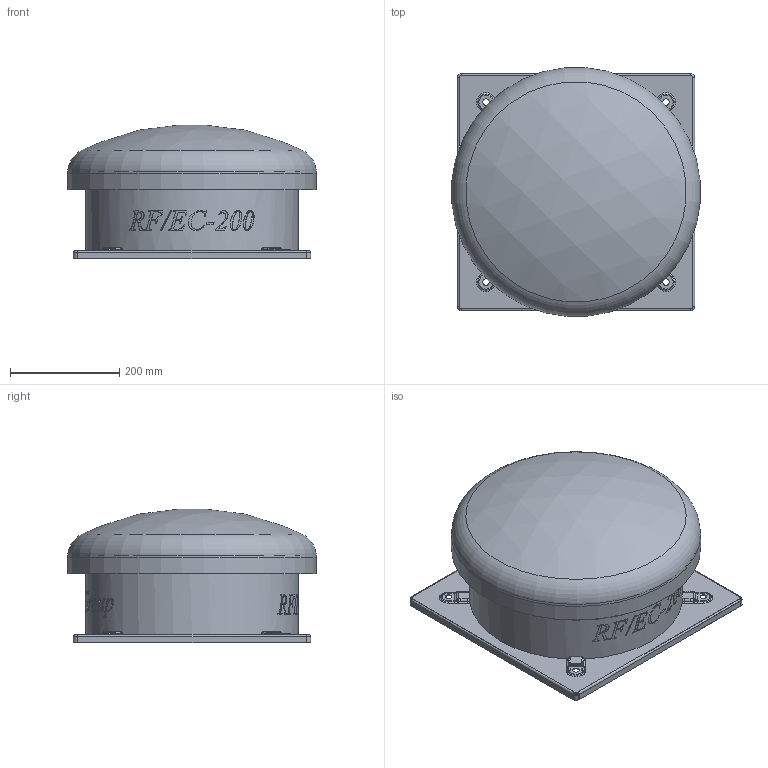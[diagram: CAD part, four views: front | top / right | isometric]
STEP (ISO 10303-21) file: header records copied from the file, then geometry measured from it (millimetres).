
FILE_DESCRIPTION(/* description */ (''),/* implementation_level */ '2;1');
FILE_NAME(/* name */ 'E:\Mariusz\Modele uproszczone\RF-EC\RF_EC_200 43522921\RF_EC_200 43522921\RF_EC_200 43522921.stp',/* time_stamp */ '2018-06-06T16:31:10+02:00',/* author */ ('M.Janczarek'),/* organization */ (''),/* preprocessor_version */ 'ST-DEVELOPER v16.5',/* originating_system */ 'Autodesk Inventor 2017',/* authorisation */ '');
FILE_SCHEMA (('AUTOMOTIVE_DESIGN { 1 0 10303 214 3 1 1 }'));
Length unit declared in the file: millimetre
Products named in the file (1): RF_EC_200 43522921
Bounding box: 455.53 x 455.53 x 244.87 mm (x, y, z)
Volume: 26678973.7 mm3; surface area: 831507.6 mm2
Topology: 1 solids, 1 shells, 722 faces, 1905 edges, 1221 vertices
Faces by surface type: bspline 446, cylinder 115, plane 108, torus 44, cone 8, sphere 1
Full cylindrical faces by diameter (mm): 10 x1, 12 x4, 390 x1, 454 x1, 457 x1
Entity records: 31411 total; most frequent: CARTESIAN_POINT 15578, ORIENTED_EDGE 3778, DIRECTION 2271, EDGE_CURVE 1889, VERTEX_POINT 1215, AXIS2_PLACEMENT_3D 839, EDGE_LOOP 776, B_SPLINE_CURVE_WITH_KNOTS 734
